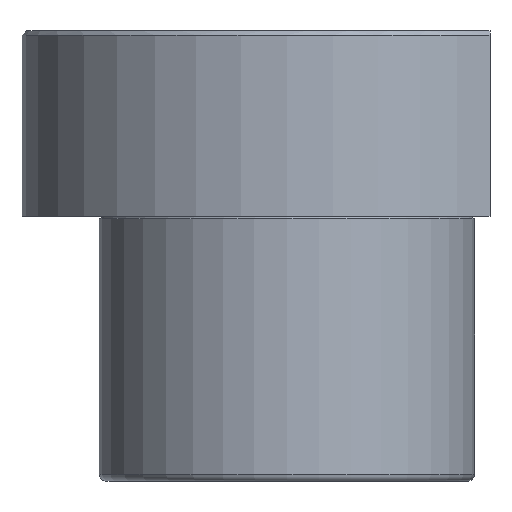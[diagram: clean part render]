
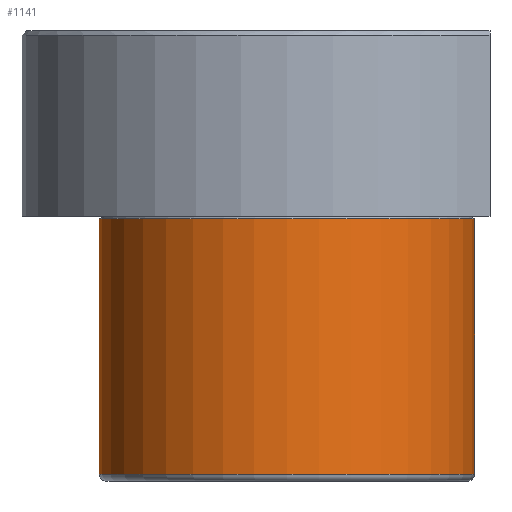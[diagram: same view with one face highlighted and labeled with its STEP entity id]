
A CAD part, front view. The second image highlights one B-rep face of the part: STEP entity #1141.
In plain terms, the highlighted cylindrical face has radius 42.5 mm (diameter 85 mm), a partial arc.
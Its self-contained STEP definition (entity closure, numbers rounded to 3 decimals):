
#953=CARTESIAN_POINT('Vertex',(42.5,0.,-0.6)) ;
#955=CARTESIAN_POINT('Vertex',(-42.5,0.,-0.6)) ;
#980=CARTESIAN_POINT('Axis2P3D Location',(0.,0.,-0.6)) ;
#1087=CARTESIAN_POINT('Line Origine',(-42.5,0.,42.)) ;
#1091=CARTESIAN_POINT('Vertex',(-42.5,0.,-58.4)) ;
#1094=CARTESIAN_POINT('Line Origine',(42.5,0.,42.)) ;
#1098=CARTESIAN_POINT('Vertex',(42.5,0.,-58.4)) ;
#1125=CARTESIAN_POINT('Axis2P3D Location',(0.,0.,42.)) ;
#1130=CARTESIAN_POINT('Axis2P3D Location',(0.,0.,-58.4)) ;
#981=DIRECTION('Axis2P3D Direction',(0.,-0.,1.)) ;
#1088=DIRECTION('Vector Direction',(0.,0.,-1.)) ;
#1095=DIRECTION('Vector Direction',(0.,0.,-1.)) ;
#1126=DIRECTION('Axis2P3D Direction',(0.,0.,-1.)) ;
#1127=DIRECTION('Axis2P3D XDirection',(1.,0.,0.)) ;
#1131=DIRECTION('Axis2P3D Direction',(0.,0.,-1.)) ;
#982=AXIS2_PLACEMENT_3D('Circle Axis2P3D',#980,#981,$) ;
#1128=AXIS2_PLACEMENT_3D('Cylinder Axis2P3D',#1125,#1126,#1127) ;
#1132=AXIS2_PLACEMENT_3D('Circle Axis2P3D',#1130,#1131,$) ;
#1136=ORIENTED_EDGE('',*,*,#1100,.T.) ;
#1137=ORIENTED_EDGE('',*,*,#984,.F.) ;
#1138=ORIENTED_EDGE('',*,*,#1093,.T.) ;
#1139=ORIENTED_EDGE('',*,*,#1134,.T.) ;
#1089=VECTOR('Line Direction',#1088,1.) ;
#1096=VECTOR('Line Direction',#1095,1.) ;
#1141=ADVANCED_FACE('737-60',(#1140),#1129,.T.) ;
#983=CIRCLE('generated circle',#982,42.5) ;
#1133=CIRCLE('generated circle',#1132,42.5) ;
#1129=CYLINDRICAL_SURFACE('generated cylinder',#1128,42.5) ;
#984=EDGE_CURVE('',#956,#954,#983,.T.) ;
#1093=EDGE_CURVE('',#956,#1092,#1090,.T.) ;
#1100=EDGE_CURVE('',#1099,#954,#1097,.F.) ;
#1134=EDGE_CURVE('',#1092,#1099,#1133,.F.) ;
#1135=EDGE_LOOP('',(#1136,#1137,#1138,#1139)) ;
#1140=FACE_OUTER_BOUND('',#1135,.T.) ;
#1090=LINE('Line',#1087,#1089) ;
#1097=LINE('Line',#1094,#1096) ;
#954=VERTEX_POINT('',#953) ;
#956=VERTEX_POINT('',#955) ;
#1092=VERTEX_POINT('',#1091) ;
#1099=VERTEX_POINT('',#1098) ;
